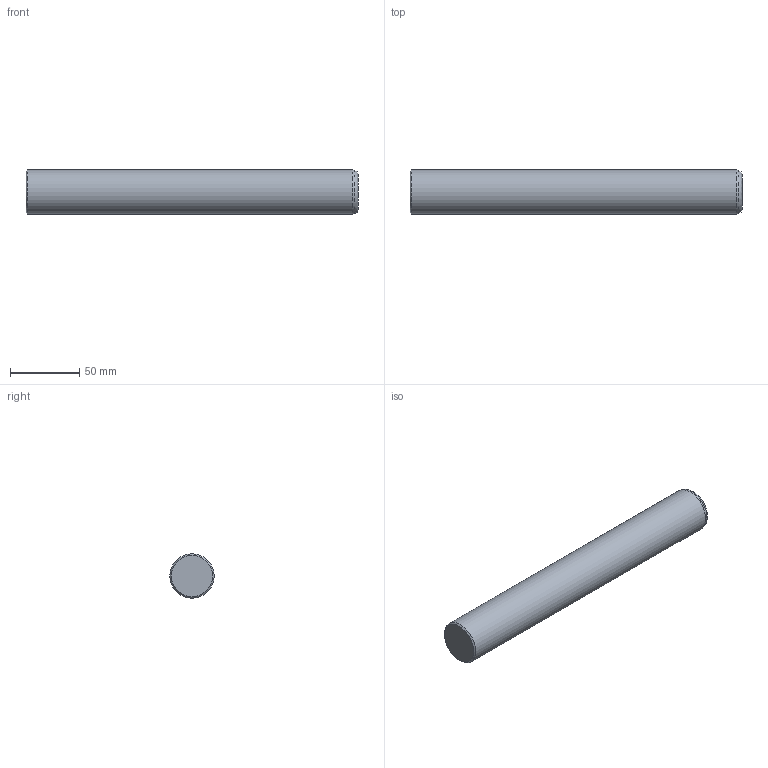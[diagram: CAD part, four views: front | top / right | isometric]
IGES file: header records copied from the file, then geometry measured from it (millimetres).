
Global section: file name: CIS32240.ipt; native system: Autodesk Inventor 2021; preprocessor: unknown; author: SM; date: 20211220.124448; units: millimetre
Bounding box: 240 x 32 x 32 mm (x, y, z)
Volume: 192675.9 mm3; surface area: 25508.5 mm2
Topology: 1 solids, 1 shells, 6 faces, 11 edges, 7 vertices
Faces by surface type: cone 2, plane 2, revolution 1, cylinder 1
Full cylindrical faces by diameter (mm): 32 x1
